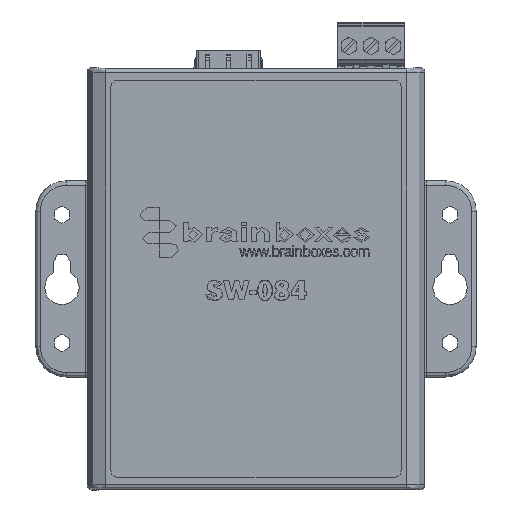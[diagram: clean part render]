
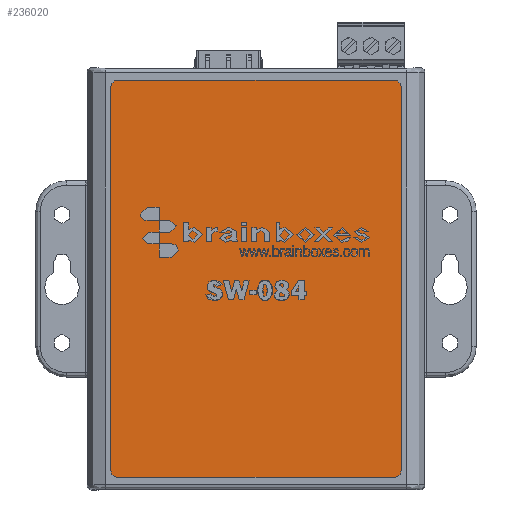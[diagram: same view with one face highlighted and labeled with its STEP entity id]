
A CAD part, top view. The second image highlights one B-rep face of the part: STEP entity #236020.
In plain terms, the highlighted planar face has unit normal (0, 0, 1).
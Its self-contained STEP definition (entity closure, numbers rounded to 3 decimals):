
#235829 = VERTEX_POINT('',#235830);
#235830 = CARTESIAN_POINT('',(-33.25,-45.25,20.1));
#235836 = EDGE_CURVE('',#235829,#235837,#235839,.T.);
#235837 = VERTEX_POINT('',#235838);
#235838 = CARTESIAN_POINT('',(-31.75,-46.75,20.1));
#235839 = CIRCLE('',#235840,1.5);
#235840 = AXIS2_PLACEMENT_3D('',#235841,#235842,#235843);
#235841 = CARTESIAN_POINT('',(-31.75,-45.25,20.1));
#235842 = DIRECTION('',(-0.,0.,1.));
#235843 = DIRECTION('',(0.,-1.,0.));
#235862 = EDGE_CURVE('',#235863,#235829,#235865,.T.);
#235863 = VERTEX_POINT('',#235864);
#235864 = CARTESIAN_POINT('',(-33.25,42.85,20.1));
#235865 = LINE('',#235866,#235867);
#235866 = CARTESIAN_POINT('',(-33.25,42.85,20.1));
#235867 = VECTOR('',#235868,1.);
#235868 = DIRECTION('',(0.,-1.,0.));
#235885 = VERTEX_POINT('',#235886);
#235886 = CARTESIAN_POINT('',(-31.75,44.35,20.1));
#235892 = EDGE_CURVE('',#235885,#235863,#235893,.T.);
#235893 = CIRCLE('',#235894,1.5);
#235894 = AXIS2_PLACEMENT_3D('',#235895,#235896,#235897);
#235895 = CARTESIAN_POINT('',(-31.75,42.85,20.1));
#235896 = DIRECTION('',(0.,0.,1.));
#235897 = DIRECTION('',(0.,1.,0.));
#235911 = EDGE_CURVE('',#235912,#235885,#235914,.T.);
#235912 = VERTEX_POINT('',#235913);
#235913 = CARTESIAN_POINT('',(31.75,44.35,20.1));
#235914 = LINE('',#235915,#235916);
#235915 = CARTESIAN_POINT('',(-31.75,44.35,20.1));
#235916 = VECTOR('',#235917,1.);
#235917 = DIRECTION('',(-1.,0.,0.));
#235934 = VERTEX_POINT('',#235935);
#235935 = CARTESIAN_POINT('',(33.25,42.85,20.1));
#235941 = EDGE_CURVE('',#235934,#235912,#235942,.T.);
#235942 = CIRCLE('',#235943,1.5);
#235943 = AXIS2_PLACEMENT_3D('',#235944,#235945,#235946);
#235944 = CARTESIAN_POINT('',(31.75,42.85,20.1));
#235945 = DIRECTION('',(-0.,0.,1.));
#235946 = DIRECTION('',(0.,-1.,0.));
#235960 = EDGE_CURVE('',#235961,#235934,#235963,.T.);
#235961 = VERTEX_POINT('',#235962);
#235962 = CARTESIAN_POINT('',(33.25,-45.25,20.1));
#235963 = LINE('',#235964,#235965);
#235964 = CARTESIAN_POINT('',(33.25,42.85,20.1));
#235965 = VECTOR('',#235966,1.);
#235966 = DIRECTION('',(0.,1.,0.));
#235983 = VERTEX_POINT('',#235984);
#235984 = CARTESIAN_POINT('',(31.75,-46.75,20.1));
#235990 = EDGE_CURVE('',#235983,#235961,#235991,.T.);
#235991 = CIRCLE('',#235992,1.5);
#235992 = AXIS2_PLACEMENT_3D('',#235993,#235994,#235995);
#235993 = CARTESIAN_POINT('',(31.75,-45.25,20.1));
#235994 = DIRECTION('',(-0.,0.,1.));
#235995 = DIRECTION('',(0.,-1.,0.));
#236009 = EDGE_CURVE('',#235837,#235983,#236010,.T.);
#236010 = LINE('',#236011,#236012);
#236011 = CARTESIAN_POINT('',(-31.75,-46.75,20.1));
#236012 = VECTOR('',#236013,1.);
#236013 = DIRECTION('',(1.,0.,0.));
#236020 = ADVANCED_FACE('',(#236021),#236031,.T.);
#236021 = FACE_BOUND('',#236022,.T.);
#236022 = EDGE_LOOP('',(#236023,#236024,#236025,#236026,#236027,#236028,
    #236029,#236030));
#236023 = ORIENTED_EDGE('',*,*,#235836,.T.);
#236024 = ORIENTED_EDGE('',*,*,#236009,.T.);
#236025 = ORIENTED_EDGE('',*,*,#235990,.T.);
#236026 = ORIENTED_EDGE('',*,*,#235960,.T.);
#236027 = ORIENTED_EDGE('',*,*,#235941,.T.);
#236028 = ORIENTED_EDGE('',*,*,#235911,.T.);
#236029 = ORIENTED_EDGE('',*,*,#235892,.T.);
#236030 = ORIENTED_EDGE('',*,*,#235862,.T.);
#236031 = PLANE('',#236032);
#236032 = AXIS2_PLACEMENT_3D('',#236033,#236034,#236035);
#236033 = CARTESIAN_POINT('',(-31.75,-45.25,20.1));
#236034 = DIRECTION('',(0.,0.,1.));
#236035 = DIRECTION('',(1.,0.,0.));
